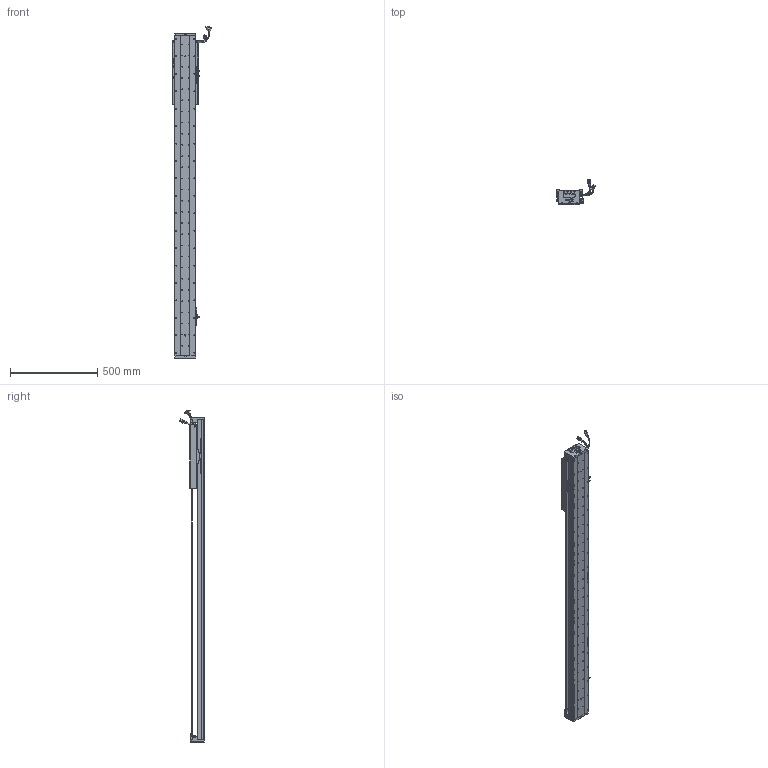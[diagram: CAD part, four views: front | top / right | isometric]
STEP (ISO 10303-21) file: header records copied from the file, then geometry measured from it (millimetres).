
FILE_DESCRIPTION (( 'STEP AP203' ), '1' );
FILE_NAME ('Z5-RY120D-1-L500-B-K.SLDASM_1400.step', '2021-05-17T06:22:59', ( '盈信电脑' ), ( '东莞市道滘镇水果街19号' ), 'SwSTEP 2.0', 'SolidWorks 2016', '' );
FILE_SCHEMA (( 'CONFIG_CONTROL_DESIGN' ));
Length unit declared in the file: millimetre
Products named in the file (37): 120-Z-臏賑輸盄裔(21遴); 140雄赽晤鎢ん堤盄; SCREW-M1.6-3; HOLDER0; 140蚥薯蝶輸; SCREW-M1.7; Z5-RY120-L500詩湍100mm遵_1400; RY100FB-遵嫖萇覜茼え; LABEL; Z-RY120D詩湍奻揤裔; SCALE-Part-1; SCREW-M1.6; SEAL; 672嫖萇羲壽假蚾釱; 榋妏寠巭燃_暯_M2_2; SHIELDPLATE; SCREW-M1.6-2; SCREW-M1.7-1; Z5-RY120-500-倰第菁釱_1400; Z-120詩湍傷裔啣; PSLH080_PSLF2; 080黍杅芛假蚾釱21遴; SCALE-Part-2; 覜茼ん672; COVER; SCREW-M1.6-1; COVER-Part-1; SCALE; Z5-RY120D-1-L500-B-K.SLDASM_1400; HARNESS; LABEL-Part-1; Z5-RY120铝滑块（21款）; SEAL-Part-1; Z-RY120D詩湍狟揤裔; HARNESS-Part-1; HARNESS-Part-2; PBU_SHEET
Assembly tree (43 placements, depth 4):
  Z5-RY120D-1-L500-B-K.SLDASM_1400
    Z5-RY120-500-倰第菁釱_1400
    覜茼ん672  x3
    672嫖萇羲壽假蚾釱  x2
    Z5-RY120铝滑块（21款）
    PSLH080_PSLF2
      SCALE
        SCALE-Part-1
        SCALE-Part-2
      HARNESS
        HARNESS-Part-1
        HARNESS-Part-2
      LABEL
        LABEL-Part-1
      COVER
        COVER-Part-1
      SEAL
        SEAL-Part-1
      榋妏寠巭燃_暯_M2_2
      SHIELDPLATE
      SCREW-M1.7
      SCREW-M1.7-1
      PBU_SHEET
      SCREW-M1.6
      SCREW-M1.6-1
      SCREW-M1.6-2
      SCREW-M1.6-3
      HOLDER0
    080黍杅芛假蚾釱21遴
    120-Z-臏賑輸盄裔(21遴)
    140雄赽晤鎢ん堤盄
    140蚥薯蝶輸  x2
    RY100FB-遵嫖萇覜茼え
    Z-120詩湍傷裔啣  x2
    Z-RY120D詩湍奻揤裔  x2
    Z-RY120D詩湍狟揤裔  x2
    Z5-RY120-L500詩湍100mm遵_1400
Bounding box: 222.86 x 140.94 x 1903.99 mm (x, y, z)
Volume: 5067612.4 mm3; surface area: 1684177.5 mm2
Topology: 38 solids, 38 shells, 3345 faces, 9317 edges, 5886 vertices
Faces by surface type: cylinder 1687, plane 1202, cone 334, torus 69, bspline 53
Entity records: 107664 total; most frequent: CARTESIAN_POINT 31241, ORIENTED_EDGE 15490, DIRECTION 14641, EDGE_CURVE 7745, AXIS2_PLACEMENT_3D 5412, VERTEX_POINT 5006, LINE 3817, VECTOR 3817
